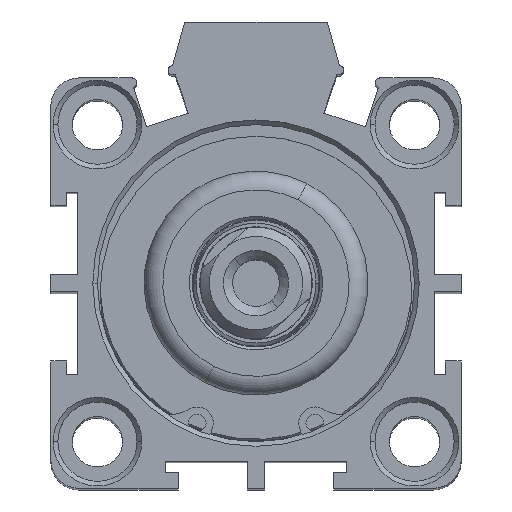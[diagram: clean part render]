
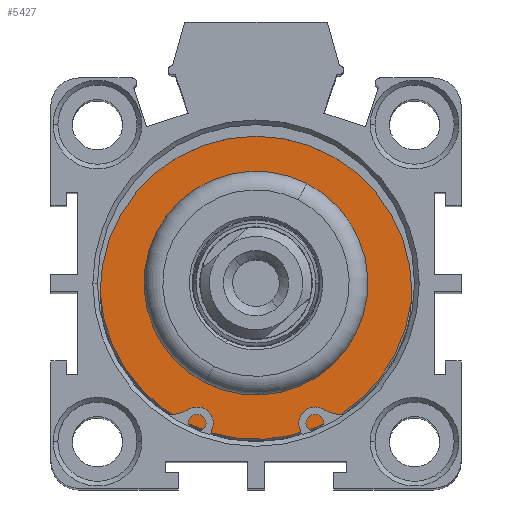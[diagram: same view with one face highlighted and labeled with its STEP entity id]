
A CAD part, top view. The second image highlights one B-rep face of the part: STEP entity #5427.
In plain terms, the highlighted planar face has unit normal (0, 0, 1) as drawn and (1, 0, 0) by its records, which use the part's own axes.
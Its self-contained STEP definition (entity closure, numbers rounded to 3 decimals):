
#29 = DIRECTION ( 'NONE',  ( 0., 0., 1. ) ) ;
#44 = DIRECTION ( 'NONE',  ( -1., 0., 0. ) ) ;
#113 = EDGE_CURVE ( 'NONE', #11057, #2018, #17057, .T. ) ;
#252 = AXIS2_PLACEMENT_3D ( 'NONE', #4895, #10791, #5934 ) ;
#352 = ORIENTED_EDGE ( 'NONE', *, *, #113, .T. ) ;
#790 = ORIENTED_EDGE ( 'NONE', *, *, #4472, .F. ) ;
#2018 = VERTEX_POINT ( 'NONE', #11611 ) ;
#2168 = VERTEX_POINT ( 'NONE', #19592 ) ;
#2298 = EDGE_LOOP ( 'NONE', ( #352, #14655 ) ) ;
#4191 = CIRCLE ( 'NONE', #15864, 16.75 ) ;
#4472 = EDGE_CURVE ( 'NONE', #2168, #20096, #11051, .T. ) ;
#4895 = CARTESIAN_POINT ( 'NONE',  ( 4.5, 0., 0. ) ) ;
#5427 = ADVANCED_FACE ( 'NONE', ( #15087, #15256 ), #18724, .F. ) ;
#5822 = DIRECTION ( 'NONE',  ( 0., 0., 1. ) ) ;
#5839 = AXIS2_PLACEMENT_3D ( 'NONE', #13660, #17310, #15474 ) ;
#5934 = DIRECTION ( 'NONE',  ( 0., 0., 1. ) ) ;
#6062 = AXIS2_PLACEMENT_3D ( 'NONE', #13006, #17620, #29 ) ;
#8224 = CARTESIAN_POINT ( 'NONE',  ( 4.5, 0., 0. ) ) ;
#8623 = AXIS2_PLACEMENT_3D ( 'NONE', #18363, #44, #5822 ) ;
#9767 = EDGE_CURVE ( 'NONE', #2018, #11057, #11041, .T. ) ;
#10759 = EDGE_LOOP ( 'NONE', ( #15848, #790 ) ) ;
#10791 = DIRECTION ( 'NONE',  ( -1., 0., 0. ) ) ;
#11041 = CIRCLE ( 'NONE', #6062, 12. ) ;
#11051 = CIRCLE ( 'NONE', #8623, 16.75 ) ;
#11057 = VERTEX_POINT ( 'NONE', #11489 ) ;
#11252 = CARTESIAN_POINT ( 'NONE',  ( 4.5, 0., 16.75 ) ) ;
#11489 = CARTESIAN_POINT ( 'NONE',  ( 4.5, 0., 12. ) ) ;
#11611 = CARTESIAN_POINT ( 'NONE',  ( 4.5, 0., -12. ) ) ;
#13006 = CARTESIAN_POINT ( 'NONE',  ( 4.5, 0., 0. ) ) ;
#13660 = CARTESIAN_POINT ( 'NONE',  ( 4.5, 16.75, 0. ) ) ;
#14655 = ORIENTED_EDGE ( 'NONE', *, *, #9767, .T. ) ;
#15087 = FACE_OUTER_BOUND ( 'NONE', #10759, .T. ) ;
#15256 = FACE_BOUND ( 'NONE', #2298, .T. ) ;
#15474 = DIRECTION ( 'NONE',  ( 0., 0., 1. ) ) ;
#15696 = EDGE_CURVE ( 'NONE', #20096, #2168, #4191, .T. ) ;
#15848 = ORIENTED_EDGE ( 'NONE', *, *, #15696, .F. ) ;
#15864 = AXIS2_PLACEMENT_3D ( 'NONE', #8224, #16072, #15934 ) ;
#15934 = DIRECTION ( 'NONE',  ( 0., 0., 1. ) ) ;
#16072 = DIRECTION ( 'NONE',  ( -1., 0., 0. ) ) ;
#17057 = CIRCLE ( 'NONE', #252, 12. ) ;
#17310 = DIRECTION ( 'NONE',  ( -1., 0., 0. ) ) ;
#17620 = DIRECTION ( 'NONE',  ( -1., 0., 0. ) ) ;
#18363 = CARTESIAN_POINT ( 'NONE',  ( 4.5, 0., 0. ) ) ;
#18724 = PLANE ( 'NONE',  #5839 ) ;
#19592 = CARTESIAN_POINT ( 'NONE',  ( 4.5, 0., -16.75 ) ) ;
#20096 = VERTEX_POINT ( 'NONE', #11252 ) ;
